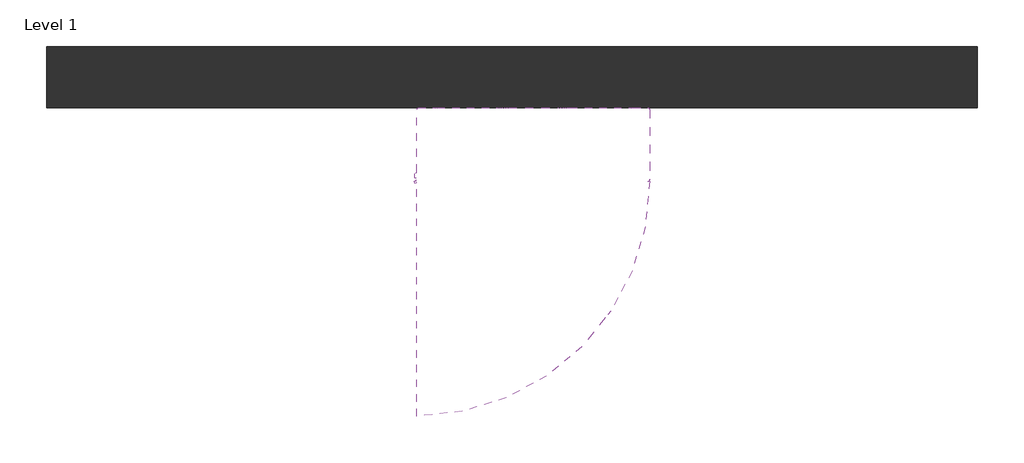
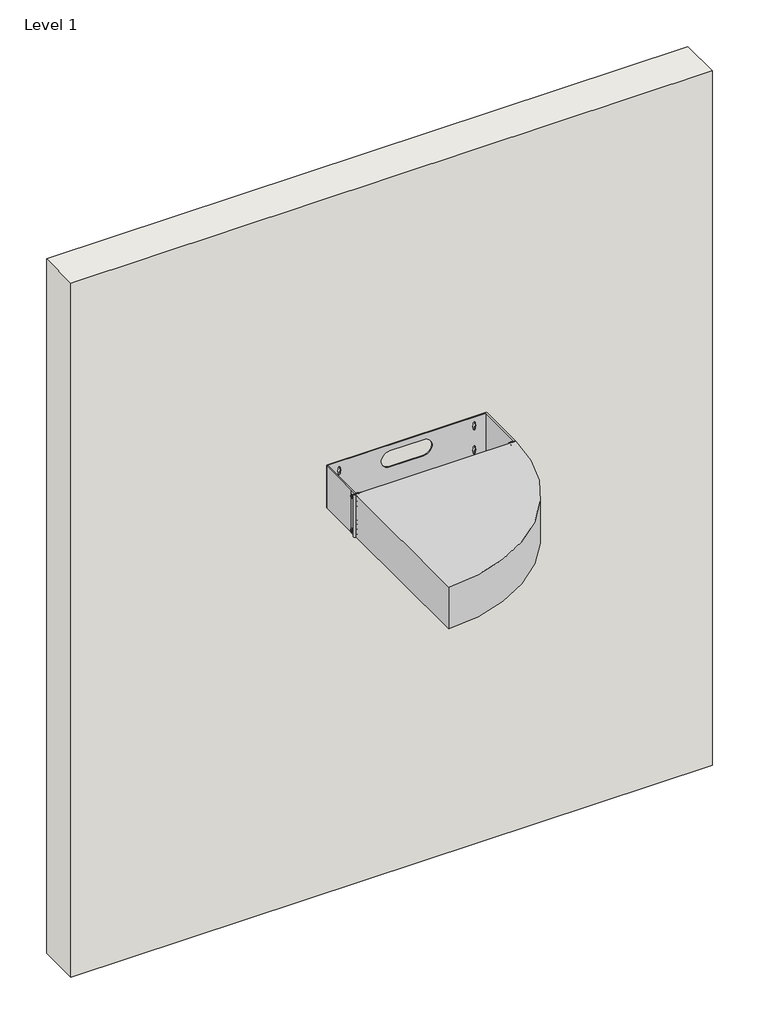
# One storey: 1 electric appliance, 1 wall.
"""IFC4 building model written with IfcOpenShell, lengths in millimetres."""

from ifc_helpers import new_model, si_unit, origin, origin_with_axes, place, context, project, spatial, polyline, outline, extrude, transform, mapped, element, save
from components import hinged_wall_mount_standoff_bracket_2_rack_units_e0259093, hinged_wall_mount_standoff_bracket_2_rack_units_79093c4a

model = new_model("IFC4")

# Units and contexts
model_context = context("Model", 3, world=origin())
ifc_project = project(units=[si_unit("LENGTHUNIT", "METRE", prefix="MILLI")], contexts=[model_context])

# Site, building, storey
site = spatial("IfcSite", under=ifc_project)
building = spatial("IfcBuilding", under=site)
storey = spatial("IfcBuildingStorey", under=building, Name="Level 1", Elevation=0.0)

# Electric appliance
placement = place(None, origin())
hinged_wall_mount_standoff_bracket_2_rack_units_shape = hinged_wall_mount_standoff_bracket_2_rack_units_e0259093(model_context)
hinged_wall_mount_standoff_bracket_2_rack_units_2_shape = hinged_wall_mount_standoff_bracket_2_rack_units_79093c4a(model_context)
element("IfcElectricAppliance", 1, ObjectType="Data_Device-Network-Leviton-Hinged-Wall_Mount-Bracket : Hinged wall mount standoff bracket, 2 rack units", at=placement, inside=storey, context=model_context, shape_type="MappedRepresentation", body=[
    mapped(hinged_wall_mount_standoff_bracket_2_rack_units_shape, transform((-1480.3506543, 1808.9666757, 1289.3107175), x_axis=(1.0, 0.0, 0.0), y_axis=(0.0, 0.0, 1.0), z_axis=(0.0, -1.0, 0.0))),
    mapped(hinged_wall_mount_standoff_bracket_2_rack_units_2_shape, transform((-1480.3506543, 1808.9666757, 1289.3107175), x_axis=(1.0, 0.0, 0.0), y_axis=(0.0, 0.0, 1.0), z_axis=(0.0, -1.0, 0.0))),
])

# Wall
element("IfcWall", 2, ObjectType="Generic - 5\"", at=placement, inside=storey, context=model_context, shape_type="SweptSolid", body=[
    extrude(outline(polyline([(-582.1372927, 1808.9666757), (-2512.5372927, 1808.9666757), (-2512.5372927, 1935.9666757), (-582.1372927, 1935.9666757), (-582.1372927, 1808.9666757)])), origin_with_axes(), (0.0, 0.0, 1.0), 2209.8),
])

save(model, "model.ifc")
